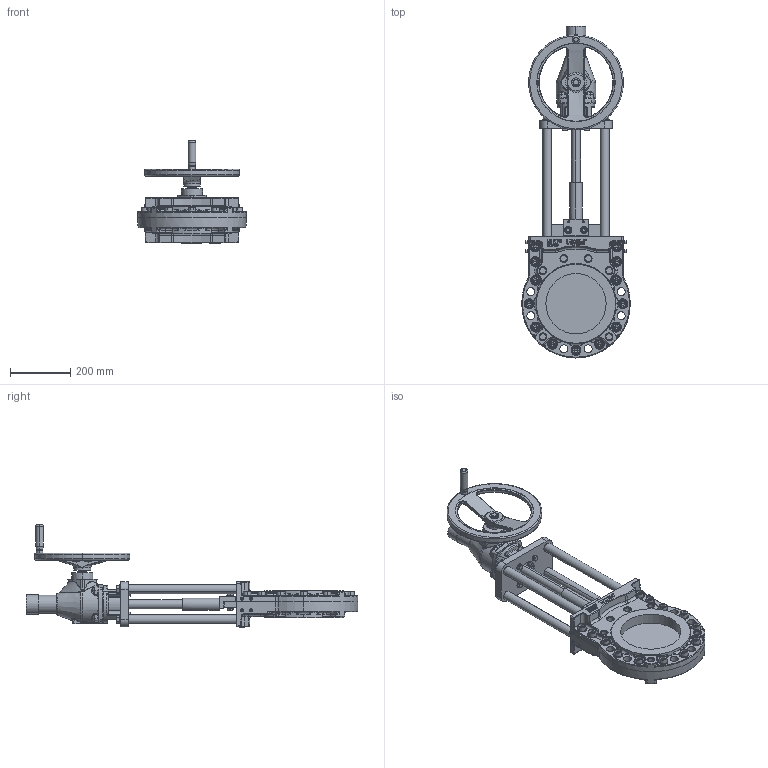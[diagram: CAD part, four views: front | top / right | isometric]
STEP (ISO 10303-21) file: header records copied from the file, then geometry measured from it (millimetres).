
FILE_DESCRIPTION (( 'STEP AP214' ), '1' );
FILE_NAME ('MHA DN 200 GK10.2.STEP', '2015-04-28T08:48:20', ( 'admin' ), ( 'Hewlett-Packard Company' ), 'SwSTEP 2.0', 'SolidWorks 2013', '' );
FILE_SCHEMA (( 'AUTOMOTIVE_DESIGN' ));
Length unit declared in the file: millimetre
Products named in the file (1): MHA DN 200 GK10.2
Bounding box: 360 x 1101 x 339.75 mm (x, y, z)
Volume: 13046911.2 mm3; surface area: 1306137.8 mm2
Topology: 61 solids, 72 shells, 2874 faces, 6809 edges, 4004 vertices
Faces by surface type: plane 941, cylinder 731, bspline 446, cone 429, torus 315, sphere 12
Entity records: 134241 total; most frequent: CARTESIAN_POINT 38775, DIRECTION 13218, ORIENTED_EDGE 13150, EDGE_CURVE 6575, AXIS2_PLACEMENT_3D 5296, VERTEX_POINT 4004, EDGE_LOOP 3131, UNCERTAINTY_MEASURE_WITH_UNIT 2935
